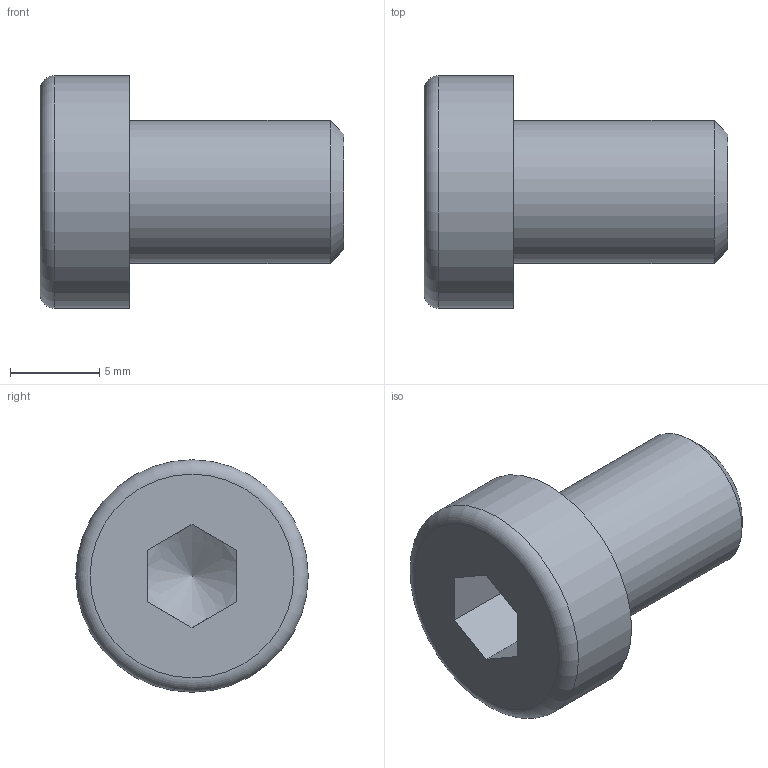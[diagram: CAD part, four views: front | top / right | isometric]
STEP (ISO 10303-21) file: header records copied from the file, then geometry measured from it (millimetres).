
FILE_DESCRIPTION((''),'2;1');
FILE_NAME('C:\Documents and Settings\Administrator\My Documents\Andys Backup Data\ANDY''S INVENTOR\INVENTOR LIBRARIES\MINITEC INVENTOR LIBRARIES\FASTENING ELEMENTS\SCREWS CAP\step\21.1264 M8X12.stp','2010-06-30T08:44:24',('Administrator'),(''),'Autodesk Inventor 2009','Autodesk Inventor 2009','');
FILE_SCHEMA(('AUTOMOTIVE_DESIGN { 1 0 10303 214 1 1 1 1 }'));
Length unit declared in the file: millimetre
Products named in the file (1): 21.1200-12 M8 x 12
Bounding box: 17 x 13 x 13 mm (x, y, z)
Volume: 1158.1 mm3; surface area: 816.6 mm2
Topology: 1 solids, 1 shells, 14 faces, 30 edges, 19 vertices
Faces by surface type: plane 9, cone 2, cylinder 2, torus 1
Full cylindrical faces by diameter (mm): 8 x1, 13 x1
Entity records: 362 total; most frequent: CARTESIAN_POINT 69, DIRECTION 54, ORIENTED_EDGE 48, EDGE_CURVE 24, AXIS2_PLACEMENT_3D 21, EDGE_LOOP 20, VERTEX_POINT 18, FACE_OUTER_BOUND 14
